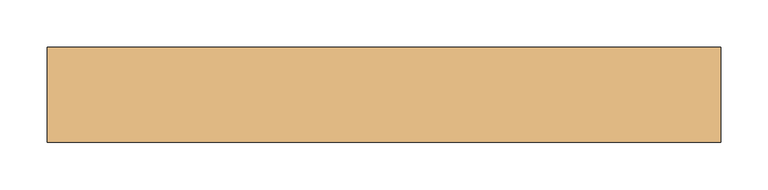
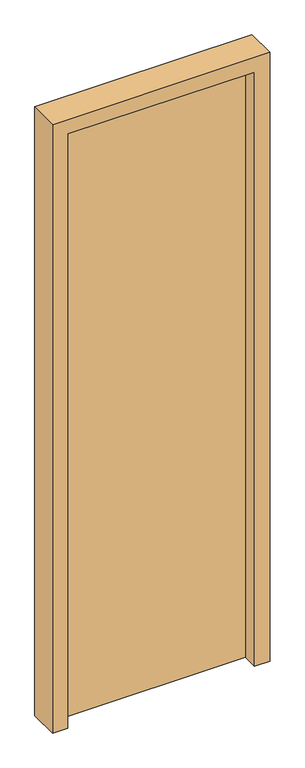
"""IFC4 building model written with IfcOpenShell, lengths in millimetres: door geometry, (Dr)_ДУ(распашная)_1Ст_Прямоугольная : (Вн)_ДГ(0.71х2.1(h))."""

from ifc_helpers import new_model, si_unit, frame, origin, origin_with_axes, place, context, project, spatial, polyline, outline, extrude, source, transform, mapped, element, save


def door_d8726fa8(model_context):
    return source(origin(), model_context, "Body", "SweptSolid", [
        extrude(outline(polyline([(-305.0, 50.0), (305.0, 50.0), (305.0, 0.0), (-305.0, 0.0), (-305.0, 50.0)])), origin_with_axes(), (0.0, 0.0, 1.0), 2050.0),
        extrude(outline(polyline([(0.0, -355.0), (0.0, -305.0), (2050.0, -305.0), (2050.0, 305.0), (0.0, 305.0), (0.0, 355.0), (2100.0, 355.0), (2100.0, -355.0), (0.0, -355.0)])), frame((0.0, -50.0, 0.0), z_axis=(0.0, 1.0, 0.0), x_axis=(0.0, 0.0, 1.0)), (0.0, 0.0, 1.0), 100.0),
    ])


if __name__ == "__main__":
    model = new_model("IFC4")
    model_context = context("Model", 3, world=origin())
    ifc_project = project(units=[si_unit("LENGTHUNIT", "METRE", prefix="MILLI")], contexts=[model_context])
    site = spatial("IfcSite", under=ifc_project)
    building = spatial("IfcBuilding", under=site)
    placement = place(None, origin())
    door_shape = door_d8726fa8(model_context)
    element("IfcDoor", 1, ObjectType="(Dr)_ДУ(распашная)_1Ст_Прямоугольная : (Вн)_ДГ(0.71х2.1(h))", at=placement, inside=building, context=model_context, shape_type="MappedRepresentation", body=[
        mapped(door_shape, transform((0.0, 0.0, 0.0), x_axis=(1.0, 0.0, 0.0), y_axis=(0.0, 1.0, 0.0), z_axis=(0.0, 0.0, 1.0))),
    ])
    save(model, "model.ifc")
